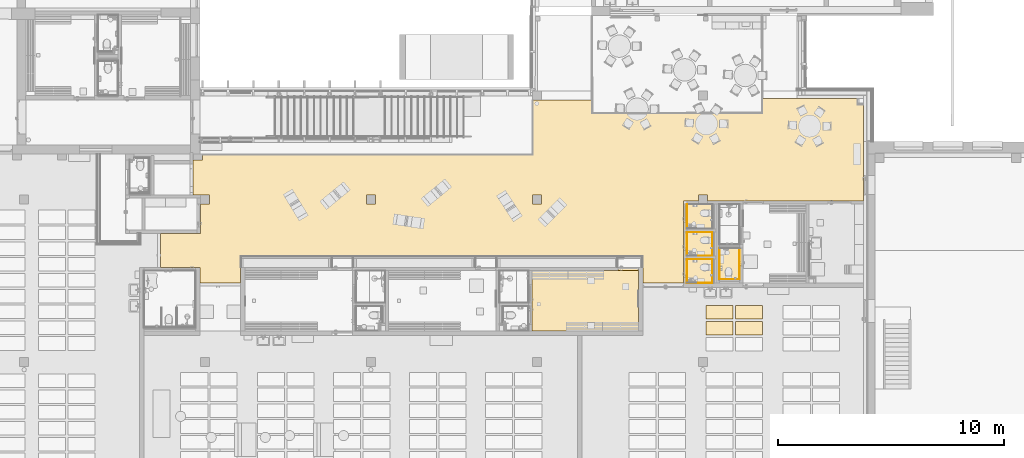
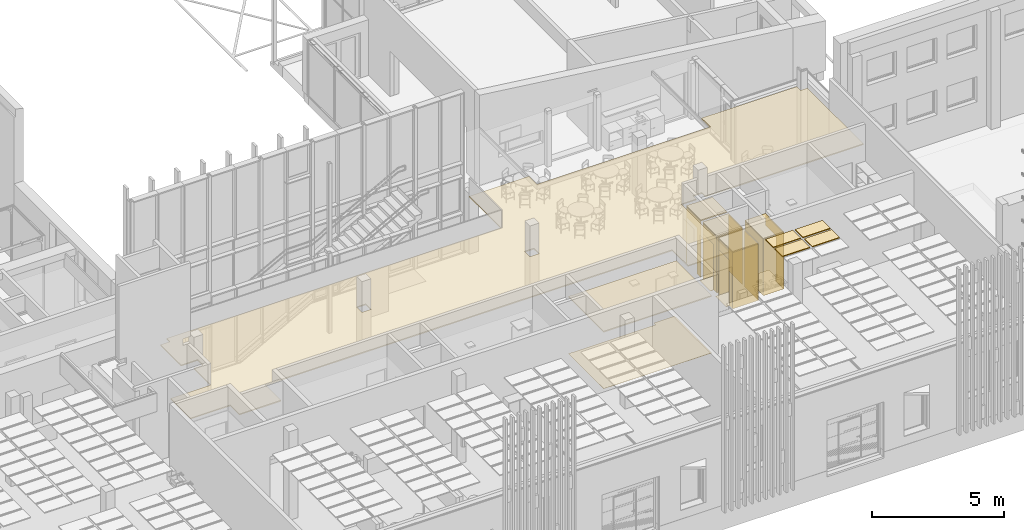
# One storey, part 238 of 301: 26 coverings, 4 openings.
"""IFC2X3 building model written with IfcOpenShell, lengths in millimetres."""

import ifcopenshell
import ifcopenshell.guid

model = None  # the IFC model being written
_history = None  # IfcOwnerHistory: only IFC2X3 demands one
_inside = {}  # id of a spatial element -> (the spatial element, [elements in it])
_under = {}  # id of a project, library or spatial element -> (it, [spatial elements below it])
_declared = {}  # id of a project -> (the project, [libraries it declares])
_typed = {}  # id of a type object -> (the type object, [elements of that type])
_made_of = {}  # id of a material, layer set ... -> (it, [elements and type objects made of it])


def new_model(schema):
    """Start an empty IFC model of exactly this schema.

    Asked for "IFC4X3", IfcOpenShell would pick the latest addendum, in which some entities
    have other attributes; the version numbers below select the first issue.
    IFC2X3 requires an IfcOwnerHistory on every rooted entity: one is made here for all.
    """
    global model, _history
    if schema == "IFC4X3":
        model = ifcopenshell.file(schema_version=(4, 3, 0, 0))
    else:
        model = ifcopenshell.file(schema=schema)
    _inside.clear()
    _under.clear()
    _declared.clear()
    _typed.clear()
    _made_of.clear()
    _history = None
    if model.schema == "IFC2X3":
        org = make("IfcOrganization", Name="unknown")
        user = make(
            "IfcPersonAndOrganization",
            ThePerson=make("IfcPerson", FamilyName="unknown"),
            TheOrganization=org,
        )
        app = make(
            "IfcApplication",
            ApplicationDeveloper=org,
            Version="unknown",
            ApplicationFullName="unknown",
            ApplicationIdentifier="unknown",
        )
        _history = make(
            "IfcOwnerHistory",
            OwningUser=user,
            OwningApplication=app,
            ChangeAction="ADDED",
            CreationDate=0,
        )
    return model


def make(cls, **values):
    """One entity of the class cls with the attributes given. An attribute that is None is left unset."""
    return model.create_entity(
        cls, **{name: value for name, value in values.items() if value is not None}
    )


def entity(cls, *values):
    """Any entity or typed value of the class cls, its attributes in the order of the schema. None: left unset."""
    e = model.create_entity(cls)
    for i, value in enumerate(values):
        if value is not None:
            e[i] = value
    return e


def rooted(cls, **values):
    """An entity with a GlobalId (a new one), such as an element, a storey or a relation."""
    return make(cls, GlobalId=ifcopenshell.guid.new(), OwnerHistory=_history, **values)


def si_unit(unit_type, name, prefix=None):
    """IfcSIUnit, for example si_unit("LENGTHUNIT", "METRE", prefix="MILLI")."""
    return make("IfcSIUnit", UnitType=unit_type, Prefix=prefix, Name=name)


def converted_unit(unit_type, name, factor, base, dimensions=None, offset=None):
    """IfcConversionBasedUnit, such as the inch: factor (a typed value) times the base unit."""
    return make(
        "IfcConversionBasedUnit"
        if offset is None
        else "IfcConversionBasedUnitWithOffset",
        ConversionOffset=offset,
        Dimensions=None
        if dimensions is None
        else entity("IfcDimensionalExponents", *dimensions),
        UnitType=unit_type,
        Name=name,
        ConversionFactor=make(
            "IfcMeasureWithUnit", ValueComponent=factor, UnitComponent=base
        ),
    )


def derived_unit(unit_type, elements):
    """IfcDerivedUnit: a product of units, each with its exponent."""
    return make(
        "IfcDerivedUnit",
        Elements=[
            make("IfcDerivedUnitElement", Unit=unit, Exponent=power)
            for unit, power in elements
        ],
        UnitType=unit_type,
    )


def money_unit(currency):
    """IfcMonetaryUnit."""
    return make("IfcMonetaryUnit", Currency=currency)


def assignment(units):
    """IfcUnitAssignment: the units of a project."""
    return None if units is None else make("IfcUnitAssignment", Units=units)


def point(xyz):
    """IfcCartesianPoint."""
    return None if xyz is None else make("IfcCartesianPoint", Coordinates=xyz)


def direction(xyz):
    """IfcDirection."""
    return None if xyz is None else make("IfcDirection", DirectionRatios=xyz)


def frame(location, z_axis=None, x_axis=None):
    """IfcAxis2Placement3D, a coordinate frame: its origin and axes. An axis left out is left unset."""
    return make(
        "IfcAxis2Placement3D",
        Location=point(location),
        Axis=direction(z_axis),
        RefDirection=direction(x_axis),
    )


def origin_with_axes():
    """The frame at (0, 0, 0) with the z axis (0, 0, 1) and the x axis (1, 0, 0) written out."""
    return frame((0.0, 0.0, 0.0), z_axis=(0.0, 0.0, 1.0), x_axis=(1.0, 0.0, 0.0))


def place(relative_to, where):
    """IfcLocalPlacement: puts the frame where relative to a parent placement (None: the world)."""
    return make(
        "IfcLocalPlacement", PlacementRelTo=relative_to, RelativePlacement=where
    )


def context(
    kind, dimensions, precision=None, world=None, true_north=None, identifier=None
):
    """IfcGeometricRepresentationContext, for example the 3D "Model" context."""
    return make(
        "IfcGeometricRepresentationContext",
        ContextIdentifier=identifier,
        ContextType=kind,
        CoordinateSpaceDimension=dimensions,
        Precision=precision,
        WorldCoordinateSystem=world,
        TrueNorth=true_north,
    )


def subcontext(parent, identifier, kind, view, scale=None):
    """IfcGeometricRepresentationSubContext, for example "Body" below "Model"."""
    return make(
        "IfcGeometricRepresentationSubContext",
        ContextIdentifier=identifier,
        ContextType=kind,
        ParentContext=parent,
        TargetScale=scale,
        TargetView=view,
    )


def project(units=None, contexts=None):
    """IfcProject with its units and contexts."""
    return rooted(
        "IfcProject",
        Name="project",
        RepresentationContexts=contexts,
        UnitsInContext=assignment(units),
    )


def spatial(cls, under=None, at=None, **own):
    """A site, building, storey or space (cls), placed at a placement, below another one or the project."""
    s = rooted(cls, ObjectPlacement=at, **own)
    if under is not None:
        _under.setdefault(under.id(), (under, []))[1].append(s)
    return s


def faces_of(points, faces, orient=None, outer=None):
    """IfcFace entities. A face is a list of loops; a loop is a list of indices into points, from 0.

    orient and outer hold one flag for each loop. By default every Orientation is true, the
    first loop of a face is its IfcFaceOuterBound and the others are IfcFaceBound.
    """
    made = []
    for i, loops in enumerate(faces):
        bounds = []
        for j, loop in enumerate(loops):
            is_outer = j == 0 if outer is None else outer[i][j]
            bounds.append(
                make(
                    "IfcFaceOuterBound" if is_outer else "IfcFaceBound",
                    Bound=make("IfcPolyLoop", Polygon=[points[k] for k in loop]),
                    Orientation=True if orient is None else orient[i][j],
                )
            )
        made.append(make("IfcFace", Bounds=bounds))
    return made


def faceted_brep(points, faces, orient=None, outer=None, voids=None):
    """IfcFacetedBrep: a solid bounded by flat faces; with voids (closed shells), ...WithVoids."""
    shared = [point(p) for p in points]
    hull = make("IfcClosedShell", CfsFaces=faces_of(shared, faces, orient, outer))
    if voids is None:
        return make("IfcFacetedBrep", Outer=hull)
    return make(
        "IfcFacetedBrepWithVoids",
        Outer=hull,
        Voids=[
            make(cls, CfsFaces=faces_of(shared, fs, o, b)) for cls, fs, o, b in voids
        ],
    )


def shape(context_of_items, identifier, shape_type, items):
    """IfcShapeRepresentation: the items that make up one representation, for example the "Body"."""
    return make(
        "IfcShapeRepresentation",
        ContextOfItems=context_of_items,
        RepresentationIdentifier=identifier,
        RepresentationType=shape_type,
        Items=items,
    )


def material(Name=None, Category=None):
    """IfcMaterial."""
    return make("IfcMaterial", Name=Name, Category=Category)


def made_of(thing, what):
    """Note that an element or type object is made of a material, layer set ...; save() writes the relation."""
    if what is not None:
        _made_of.setdefault(what.id(), (what, []))[1].append(thing)
    return thing


def type_object(cls, material=None, **own):
    """A type object (cls), such as IfcWallType, which elements share."""
    return made_of(rooted(cls, **own), material)


def element(
    cls,
    number,
    at=None,
    inside=None,
    cuts=None,
    type_object=None,
    material=None,
    context=None,
    identifier="Body",
    shape_type=None,
    held_by="IfcProductDefinitionShape",
    body=None,
    shapes=None,
    **own,
):
    """One element of the class cls, such as IfcWall. Its Tag is "e" and its number.

    at: its placement. inside: the storey or other place that contains it. cuts: it is an
    opening in that element (IfcRelVoidsElement). A single representation is given by context,
    identifier, shape_type and body (its items); several are given by shapes. held_by: the class
    of the entity that holds the representations. save() writes the other relations.
    """
    e = rooted(cls, Tag="e%d" % number, ObjectPlacement=at, **own)
    if body is not None:
        shapes = [shape(context, identifier, shape_type, body)]
    if shapes is not None:
        e.Representation = make(held_by, Representations=shapes)
    if inside is not None:
        _inside.setdefault(inside.id(), (inside, []))[1].append(e)
    if cuts is not None:
        rooted(
            "IfcRelVoidsElement", RelatingBuildingElement=cuts, RelatedOpeningElement=e
        )
    if type_object is not None:
        _typed.setdefault(type_object.id(), (type_object, []))[1].append(e)
    return made_of(e, material)


def aggregate(whole, parts):
    """IfcRelAggregates: a whole, such as a stair, and the parts it consists of."""
    return rooted("IfcRelAggregates", RelatingObject=whole, RelatedObjects=parts)


def save(model, path):
    """Write the relations noted so far, then the file.

    IfcRelAggregates (storeys below a building ...), IfcRelContainedInSpatialStructure (elements
    in a storey), IfcRelDefinesByType, IfcRelAssociatesMaterial and IfcRelDeclares: one each for
    every whole, place, type object, material and project.
    """
    for whole, parts in _under.values():
        aggregate(whole, parts)
    for where, things in _inside.values():
        rooted(
            "IfcRelContainedInSpatialStructure",
            RelatedElements=things,
            RelatingStructure=where,
        )
    for kind, things in _typed.values():
        rooted("IfcRelDefinesByType", RelatedObjects=things, RelatingType=kind)
    for what, things in _made_of.values():
        rooted("IfcRelAssociatesMaterial", RelatedObjects=things, RelatingMaterial=what)
    for by, libraries in _declared.values():
        rooted("IfcRelDeclares", RelatingContext=by, RelatedDefinitions=libraries)
    model.write(path)


model = new_model("IFC2X3")

# Units and contexts
model_context = context("Model", 3, precision=0.01, world=origin_with_axes(), true_north=direction((0.0, 1.0)))
body_context = subcontext(model_context, "Body", "Model", "MODEL_VIEW")
ifc_project = project(units=[si_unit("LENGTHUNIT", "METRE", prefix="MILLI"), si_unit("AREAUNIT", "SQUARE_METRE"), si_unit("VOLUMEUNIT", "CUBIC_METRE"), converted_unit("PLANEANGLEUNIT", "DEGREE", entity("IfcPlaneAngleMeasure", 0.0174532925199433), si_unit("PLANEANGLEUNIT", "RADIAN"), dimensions=[0, 0, 0, 0, 0, 0, 0]), money_unit("EUR"), converted_unit("TIMEUNIT", "Year", entity("IfcTimeMeasure", 31557600.0), si_unit("TIMEUNIT", "SECOND"), dimensions=[0, 0, 1, 0, 0, 0, 0]), si_unit("MASSUNIT", "GRAM", prefix="KILO"), si_unit("THERMODYNAMICTEMPERATUREUNIT", "DEGREE_CELSIUS"), si_unit("LUMINOUSINTENSITYUNIT", "LUMEN"), si_unit("ENERGYUNIT", "JOULE", prefix="MEGA"), derived_unit("THERMALCONDUCTANCEUNIT", [(si_unit("POWERUNIT", "WATT"), 1), (si_unit("LENGTHUNIT", "METRE"), -1), (si_unit("THERMODYNAMICTEMPERATUREUNIT", "KELVIN"), -1)]), derived_unit("SPECIFICHEATCAPACITYUNIT", [(si_unit("ENERGYUNIT", "JOULE"), 1), (si_unit("MASSUNIT", "GRAM", prefix="KILO"), -1), (si_unit("THERMODYNAMICTEMPERATUREUNIT", "KELVIN"), -1)]), derived_unit("MASSDENSITYUNIT", [(si_unit("MASSUNIT", "GRAM", prefix="KILO"), 1), (si_unit("VOLUMEUNIT", "CUBIC_METRE"), -1)])], contexts=[model_context])

# Site, building, storey
site_placement = place(None, frame((0.0, 0.0, 8650.0), z_axis=(0.0, 0.0, 1.0), x_axis=(1.0, 0.0, 0.0)))
site = spatial("IfcSite", under=ifc_project, at=site_placement, Name="43301:001:0844", CompositionType="ELEMENT")
building_placement = place(site_placement, origin_with_axes())
building = spatial("IfcBuilding", under=site, at=building_placement, Name="Kuressaare Ametikooli tuulikute mehaanikute õppekorpus", CompositionType="ELEMENT")
storey_placement = place(building_placement, origin_with_axes())
storey = spatial("IfcBuildingStorey", under=building, at=storey_placement, Name="1.korrus", CompositionType="ELEMENT", Elevation=0.0)

# Coverings
ifc_material_1 = material(Name="GENEERILINE - KONSTRUKTRIOON")
covering_type_1 = type_object("IfcCoveringType", Name="GENEERILINE - KONSTRUKTRIOON 50", PredefinedType="CEILING")
covering_1_placement = place(storey_placement, frame((103756.316481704, 25783.06892395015, 2640.000017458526), z_axis=(0.0, 0.0, 1.0), x_axis=(1.0, 0.0, 0.0)))
element("IfcCovering", 1, at=covering_1_placement, inside=storey, type_object=covering_type_1, material=ifc_material_1, Name="RL1", PredefinedType="CEILING", context=body_context, shape_type="Brep", body=[
    faceted_brep([(21308.94394550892, -2069.000000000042, 49.99999999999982), (21961.75187544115, -2069.000000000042, 49.99999999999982), (21961.75187544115, -1809.000000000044, 49.99999999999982), (22361.75187544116, -1809.000000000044, 49.99999999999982), (22361.75187544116, -2069.000000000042, 49.99999999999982), (29268.62995994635, -2069.000000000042, 49.99999999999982), (29268.62995994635, 2169.000000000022, 49.99999999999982), (28976.62995994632, 2169.000000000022, 49.99999999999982), (28976.62995994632, 2461.000000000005, 49.99999999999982), (24808.40173664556, 2461.000000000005, 49.99999999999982), (24808.40173664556, 1797.616194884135, 49.99999999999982), (17225.59021485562, 1797.616194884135, 49.99999999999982), (17225.59021485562, 2400.999999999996, 49.99999999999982), (14611.63008979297, 2400.999999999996, 49.99999999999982), (14611.63008979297, 0.0, 49.99999999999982), (0.0, 0.0, 49.99999999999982), (0.0, -250.0015018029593, 49.99999999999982), (-410.6617902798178, -250.0015018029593, 49.99999999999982), (-410.6617902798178, -1809.000000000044, 49.99999999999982), (311.6356600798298, -1809.000000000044, 49.99999999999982), (311.6356600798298, -2209.000000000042, 49.99999999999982), (-88.54329044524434, -2209.000000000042, 49.99999999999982), (-88.55935743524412, -3508.288538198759, 49.99999999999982), (-1849.01669125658, -3508.307434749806, 49.99999999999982), (-1849.000483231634, -5018.293903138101, 49.99999999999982), (-110.8045247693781, -5018.275245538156, 49.99999999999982), (-110.8045247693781, -5708.599082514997, 49.99999999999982), (1699.195464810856, -5708.599082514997, 49.99999999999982), (1699.195464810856, -4518.233230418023, 49.99999999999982), (19498.94505136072, -4518.230792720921, 49.99999999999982), (19498.94344818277, -5708.596644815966, 49.99999999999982), (21308.94394550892, -5708.599082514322, 49.99999999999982), (15011.63008979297, -2209.000000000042, 49.99999999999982), (14611.63008979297, -2209.000000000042, 49.99999999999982), (14611.63008979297, -1809.000000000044, 49.99999999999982), (15011.63008979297, -1809.000000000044, 49.99999999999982), (7661.632892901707, -2209.000000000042, 49.99999999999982), (7261.632892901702, -2209.000000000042, 49.99999999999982), (7261.632892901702, -1809.000000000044, 49.99999999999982), (7661.632892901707, -1809.000000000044, 49.99999999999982), (21308.94394550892, -2069.000000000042, 0.0), (21961.75187544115, -2069.000000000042, 0.0), (21961.75187544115, -1809.000000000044, 0.0), (22361.75187544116, -1809.000000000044, 0.0), (22361.75187544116, -2069.000000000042, 0.0), (29268.62995994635, -2069.000000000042, 0.0), (29268.62995994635, 2169.000000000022, 0.0), (28976.62995994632, 2169.000000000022, 0.0), (28976.62995994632, 2461.000000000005, 0.0), (24808.40173664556, 2461.000000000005, 0.0), (24808.40173664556, 1797.616194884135, 0.0), (17225.59021485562, 1797.616194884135, 0.0), (17225.59021485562, 2400.999999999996, 0.0), (14611.63008979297, 2400.999999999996, 0.0), (14611.63008979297, 0.0, 0.0), (0.0, 0.0, 0.0), (0.0, -250.0015018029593, 0.0), (-410.6617902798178, -250.0015018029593, 0.0), (-410.6617902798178, -1809.000000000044, 0.0), (311.6356600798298, -1809.000000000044, 0.0), (311.6356600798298, -2209.000000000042, 0.0), (-88.54329044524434, -2209.000000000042, 0.0), (-88.55935743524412, -3508.288538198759, 0.0), (-1849.01669125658, -3508.307434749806, 0.0), (-1849.000483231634, -5018.293903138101, 0.0), (-110.8045247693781, -5018.275245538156, 0.0), (-110.8045247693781, -5708.599082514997, 0.0), (1699.195464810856, -5708.599082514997, 0.0), (1699.195464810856, -4518.233230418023, 0.0), (19498.94505136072, -4518.230792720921, 0.0), (19498.94344818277, -5708.596644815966, 0.0), (21308.94394550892, -5708.599082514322, 0.0), (14611.63008979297, -2209.000000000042, 0.0), (15011.63008979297, -2209.000000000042, 0.0), (14611.63008979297, -1809.000000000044, 0.0), (15011.63008979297, -1809.000000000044, 0.0), (7261.632892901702, -2209.000000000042, 0.0), (7661.632892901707, -2209.000000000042, 0.0), (7261.632892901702, -1809.000000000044, 0.0), (7661.632892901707, -1809.000000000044, 0.0)], [[[0, 1, 2, 3, 4, 5, 6, 7, 8, 9, 10, 11, 12, 13, 14, 15, 16, 17, 18, 19, 20, 21, 22, 23, 24, 25, 26, 27, 28, 29, 30, 31], [32, 33, 34, 35], [36, 37, 38, 39]], [[40, 41, 1, 0]], [[42, 2, 1, 41]], [[43, 3, 2, 42]], [[44, 4, 3, 43]], [[5, 4, 44, 45]], [[6, 5, 45, 46]], [[7, 6, 46, 47]], [[8, 7, 47, 48]], [[9, 8, 48, 49]], [[10, 9, 49, 50]], [[11, 10, 50, 51]], [[12, 11, 51, 52]], [[13, 12, 52, 53]], [[14, 13, 53, 54]], [[15, 14, 54, 55]], [[16, 15, 55, 56]], [[17, 16, 56, 57]], [[18, 17, 57, 58]], [[19, 18, 58, 59]], [[20, 19, 59, 60]], [[21, 20, 60, 61]], [[22, 21, 61, 62]], [[23, 22, 62, 63]], [[24, 23, 63, 64]], [[25, 24, 64, 65]], [[26, 25, 65, 66]], [[27, 26, 66, 67]], [[28, 27, 67, 68]], [[29, 28, 68, 69]], [[30, 29, 69, 70]], [[31, 30, 70, 71]], [[0, 31, 71, 40]], [[72, 33, 32, 73]], [[74, 34, 33, 72]], [[75, 35, 34, 74]], [[73, 32, 35, 75]], [[76, 37, 36, 77]], [[78, 38, 37, 76]], [[79, 39, 38, 78]], [[77, 36, 39, 79]], [[43, 42, 41, 40, 71, 70, 69, 68, 67, 66, 65, 64, 63, 62, 61, 60, 59, 58, 57, 56, 55, 54, 53, 52, 51, 50, 49, 48, 47, 46, 45, 44], [74, 72, 73, 75], [78, 76, 77, 79]]]),
])
covering_2_placement = place(storey_placement, frame((118345.2604362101, 17954.83706625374, 2600.0), z_axis=(0.0, 0.0, 1.0), x_axis=(1.0, 0.0, 0.0)))
element("IfcCovering", 2, at=covering_2_placement, inside=storey, type_object=covering_type_1, material=ifc_material_1, Name="RL2", PredefinedType="CEILING", context=body_context, shape_type="Brep", body=[
    faceted_brep([(0.0, 0.0, 49.99999999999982), (0.0, 0.0, 0.0), (4720.000489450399, 0.0, 0.0), (4720.000489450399, 0.0, 49.99999999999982), (0.0, 2670.000387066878, 49.99999999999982), (0.0, 2670.000387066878, 0.0), (4720.000489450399, 2670.000387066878, 0.0), (4720.000489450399, 2670.000387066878, 49.99999999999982)], [[[0, 1, 2, 3]], [[4, 5, 1, 0]], [[2, 1, 5, 6]], [[3, 2, 6, 7]], [[4, 0, 3, 7]], [[7, 6, 5, 4]]]),
])
covering_3_placement = place(storey_placement, frame((126645.2610406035, 20244.46987343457, 2600.0), z_axis=(0.0, 0.0, 1.0), x_axis=(1.0, 0.0, 0.0)))
element("IfcCovering", 3, at=covering_3_placement, inside=storey, type_object=covering_type_1, material=ifc_material_1, Name="RL2", PredefinedType="CEILING", context=body_context, shape_type="Brep", body=[
    faceted_brep([(0.0, 0.0, 49.99999999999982), (0.0, 0.0, 0.0), (899.9999999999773, 0.0, 0.0), (899.9999999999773, 0.0, 49.99999999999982), (0.0, 1389.599050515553, 49.99999999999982), (0.0, 1389.599050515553, 0.0), (899.9999999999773, 1389.599050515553, 0.0), (899.9999999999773, 1389.599050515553, 49.99999999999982)], [[[0, 1, 2, 3]], [[4, 5, 1, 0]], [[2, 1, 5, 6]], [[3, 2, 6, 7]], [[4, 0, 3, 7]], [[7, 6, 5, 4]]]),
])
covering_4_placement = place(storey_placement, frame((125205.2609256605, 20074.46984143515, 2600.0), z_axis=(0.0, 0.0, 1.0), x_axis=(1.0, 0.0, 0.0)))
element("IfcCovering", 4, at=covering_4_placement, inside=storey, type_object=covering_type_1, material=ifc_material_1, Name="RL2", PredefinedType="CEILING", context=body_context, shape_type="Brep", body=[
    faceted_brep([(0.0, 0.0, 49.99999999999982), (0.0, 0.0, 0.0), (1130.000054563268, 0.0, 0.0), (1130.000054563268, 0.0, 49.99999999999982), (0.0, 1060.000154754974, 49.99999999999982), (0.0, 1060.000154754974, 0.0), (1130.000054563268, 1060.000154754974, 0.0), (1130.000054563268, 1060.000154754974, 49.99999999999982)], [[[0, 1, 2, 3]], [[4, 5, 1, 0]], [[2, 1, 5, 6]], [[3, 2, 6, 7]], [[4, 0, 3, 7]], [[7, 6, 5, 4]]]),
])
covering_5_placement = place(storey_placement, frame((125205.2607270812, 21274.46984143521, 2600.0), z_axis=(0.0, 0.0, 1.0), x_axis=(1.0, 0.0, 0.0)))
element("IfcCovering", 5, at=covering_5_placement, inside=storey, type_object=covering_type_1, material=ifc_material_1, Name="RL2", PredefinedType="CEILING", context=body_context, shape_type="Brep", body=[
    faceted_brep([(0.0, 0.0, 49.99999999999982), (0.0, 0.0, 0.0), (1129.999842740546, 0.0, 0.0), (1129.999842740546, 0.0, 49.99999999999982), (0.0, 1060.000305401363, 49.99999999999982), (0.0, 1060.000305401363, 0.0), (1129.999842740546, 1060.000305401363, 0.0), (1129.999842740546, 1060.000305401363, 49.99999999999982)], [[[0, 1, 2, 3]], [[4, 5, 1, 0]], [[2, 1, 5, 6]], [[3, 2, 6, 7]], [[4, 0, 3, 7]], [[7, 6, 5, 4]]]),
])
covering_6_placement = place(storey_placement, frame((125205.260556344, 22474.46999208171, 2600.0), z_axis=(0.0, 0.0, 1.0), x_axis=(1.0, 0.0, 0.0)))
element("IfcCovering", 6, at=covering_6_placement, inside=storey, type_object=covering_type_1, material=ifc_material_1, Name="RL2", PredefinedType="CEILING", context=body_context, shape_type="Brep", body=[
    faceted_brep([(1129.99999999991, 1100.000150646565, 0.0), (912.8078008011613, 1100.000150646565, 0.0), (912.8078008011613, 1100.000150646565, 49.99999999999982), (1129.99999999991, 1100.000150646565, 49.99999999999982), (512.8078008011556, 1099.598931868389, 0.0), (912.8078008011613, 1099.598931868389, 0.0), (1129.99999999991, 0.0, 0.0), (0.0, 0.0, 0.0), (0.0, 1100.000150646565, 0.0), (512.8078008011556, 1100.000150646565, 0.0), (912.8078008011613, 1099.598931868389, 49.99999999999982), (512.8078008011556, 1099.598931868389, 49.99999999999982), (512.8078008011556, 1100.000150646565, 49.99999999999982), (0.0, 1100.000150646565, 49.99999999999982), (0.0, 0.0, 49.99999999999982), (1129.99999999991, 0.0, 49.99999999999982)], [[[0, 1, 2, 3]], [[4, 5, 1, 0, 6, 7, 8, 9]], [[5, 10, 2, 1]], [[10, 11, 12, 13, 14, 15, 3, 2]], [[3, 15, 6, 0]], [[4, 11, 10, 5]], [[15, 14, 7, 6]], [[14, 13, 8, 7]], [[13, 12, 9, 8]], [[4, 9, 12, 11]]]),
])
covering_type_2 = type_object("IfcCoveringType", Name="GENEERILINE - KONSTRUKTRIOON 40", PredefinedType="CEILING")
for number, where, z_axis, x_axis, name in (
    (7, (128560.0, 19074.046874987, 3530.0), (0.0, 0.0, 1.0), (1.0, 0.0, 0.0), "RL3"),
    (8, (128560.0, 18374.04687498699, 3530.0), (0.0, 0.0, 1.0), (1.0, 0.0, 0.0), "RL3"),
):
    element("IfcCovering", number, at=place(storey_placement, frame(where, z_axis=z_axis, x_axis=x_axis)), inside=storey, type_object=covering_type_2, material=ifc_material_1, Name=name, PredefinedType="CEILING", context=body_context, shape_type="Brep", body=[
        faceted_brep([(0.0, 0.0, 0.0), (0.0, 0.0, -40.00000000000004), (-1200.000000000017, 0.0, -40.00000000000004), (-1200.000000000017, 0.0, 0.0), (0.0, -599.9999999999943, 0.0), (0.0, -599.9999999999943, -40.00000000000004), (-1200.000000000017, -599.9999999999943, -40.00000000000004), (-1200.000000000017, -599.9999999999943, 0.0)], [[[0, 1, 2, 3]], [[4, 5, 1, 0]], [[2, 1, 5, 6]], [[3, 2, 6, 7]], [[4, 0, 3, 7]], [[7, 6, 5, 4]]]),
    ])
for number, where, z_axis, x_axis, name in (
    (9, (127260.0, 19074.046874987, 3530.0), (0.0, 0.0, 1.0), (1.0, 0.0, 0.0), "RL3"),
    (10, (127260.0, 18374.04687498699, 3530.0), (0.0, 0.0, 1.0), (1.0, 0.0, 0.0), "RL3"),
):
    element("IfcCovering", number, at=place(storey_placement, frame(where, z_axis=z_axis, x_axis=x_axis)), inside=storey, type_object=covering_type_2, material=ifc_material_1, Name=name, PredefinedType="CEILING", context=body_context, shape_type="Brep", body=[
        faceted_brep([(0.0, 0.0, 0.0), (0.0, 0.0, -40.00000000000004), (-1200.000000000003, 0.0, -40.00000000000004), (-1200.000000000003, 0.0, 0.0), (0.0, -599.9999999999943, 0.0), (0.0, -599.9999999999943, -40.00000000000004), (-1200.000000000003, -599.9999999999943, -40.00000000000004), (-1200.000000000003, -599.9999999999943, 0.0)], [[[0, 1, 2, 3]], [[4, 5, 1, 0]], [[2, 1, 5, 6]], [[3, 2, 6, 7]], [[4, 0, 3, 7]], [[7, 6, 5, 4]]]),
    ])
ifc_material_2 = material(Name="SA_viimistluskiht")
covering_type_3 = type_object("IfcCoveringType", Name="SA_viimistluskiht 10", PredefinedType="CLADDING")
covering_7_placement = place(storey_placement, frame((126335.2609802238, 21134.46999619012, 0.0), z_axis=(0.0, 0.0, 1.0), x_axis=(2.029745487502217e-07, -0.9999999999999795, 0.0)))
element("IfcCovering", 11, at=covering_7_placement, inside=storey, type_object=covering_type_3, material=ifc_material_2, Name="S3", PredefinedType="CLADDING", context=body_context, shape_type="Brep", body=[
    faceted_brep([(9.999999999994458, 1.339728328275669e-06, 0.0), (9.999999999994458, 1.339728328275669e-06, 2600.0), (1050.000004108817, 0.0001406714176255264, 2600.0), (1050.000004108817, 0.0001406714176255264, 0.0), (10.0000016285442, -10.00000000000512, 2600.0), (10.0000016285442, -10.00000000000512, 0.0), (1049.999990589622, -10.00000000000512, 2600.0), (1049.999990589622, -9.999999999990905, 0.0)], [[[0, 1, 2, 3]], [[4, 1, 0, 5]], [[1, 4, 6, 2]], [[3, 2, 6, 7]], [[5, 0, 3, 7]], [[4, 5, 7, 6]]]),
])
covering_8_placement = place(storey_placement, frame((126335.2611953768, 20074.4699920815, 0.0), z_axis=(0.0, 0.0, 1.0), x_axis=(-0.99999999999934, 1.148925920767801e-06, 0.0)))
element("IfcCovering", 12, at=covering_8_placement, inside=storey, type_object=covering_type_3, material=ifc_material_2, Name="S3", PredefinedType="CLADDING", context=body_context, shape_type="Brep", body=[
    faceted_brep([(1130.000282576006, -9.99999999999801, 0.0), (1130.000282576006, -9.99999999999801, 2600.0), (-0.0001271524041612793, -10.00000000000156, 2600.0), (-0.0001271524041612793, -10.00000000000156, 0.0), (1130.000269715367, 0.001448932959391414, 2600.0), (1130.000269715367, 0.001448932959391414, 0.0), (-0.0001420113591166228, 0.0001506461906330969, 2600.0), (-0.0001420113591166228, 0.0001506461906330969, 0.0)], [[[0, 1, 2, 3]], [[4, 1, 0, 5]], [[1, 4, 6, 2]], [[3, 2, 6, 7]], [[5, 0, 3, 7]], [[4, 5, 7, 6]]]),
])
covering_9_placement = place(storey_placement, frame((126335.2609802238, 21134.46999619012, 0.0), z_axis=(0.0, 0.0, 1.0), x_axis=(-0.9999999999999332, -3.658297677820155e-07, 0.0)))
element("IfcCovering", 13, at=covering_9_placement, inside=storey, type_object=covering_type_3, material=ifc_material_2, Name="S3", PredefinedType="CLADDING", context=body_context, shape_type="Brep", body=[
    faceted_brep([(0.0, 0.0, 2600.0), (1130.000199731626, 0.0, 2600.0), (1130.000202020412, 9.99999999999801, 2600.0), (2.888356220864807e-07, 9.99999999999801, 2600.0), (0.0, 0.0, 0.0), (1130.000199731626, 0.0, 0.0), (1130.000202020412, 9.99999999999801, 0.0), (2.888356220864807e-07, 9.99999999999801, 0.0)], [[[0, 1, 2, 3]], [[4, 5, 1, 0]], [[6, 2, 1, 5]], [[3, 2, 6, 7]], [[7, 4, 0, 3]], [[7, 6, 5, 4]]]),
])

# Covering, opening
covering_10_placement = place(storey_placement, frame((125205.2605662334, 21274.47129447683, 0.0), z_axis=(0.0, 0.0, 1.0), x_axis=(-1.073625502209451e-07, 0.9999999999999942, 0.0)))
covering_10 = element("IfcCovering", 14, at=covering_10_placement, inside=storey, type_object=covering_type_3, material=ifc_material_2, Name="S3", PredefinedType="CLADDING", context=body_context, shape_type="Brep", body=[
    faceted_brep([(249.9983384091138, -10.00000000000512, 0.0), (249.9983384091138, -10.00000000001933, 2110.0), (1049.998295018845, -10.00000000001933, 2110.0), (1049.998295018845, -10.00000000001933, 2600.0), (9.999987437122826, -10.00000000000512, 2600.0), (9.999987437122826, -10.00000000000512, 0.0), (249.9983384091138, 0.0, 0.0), (249.9983384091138, 0.0, 2110.0), (1049.998292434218, 0.0, 2110.0), (1049.998292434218, -0.0001640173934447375, 2600.0), (9.999999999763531, -0.0001950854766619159, 2600.0), (9.999999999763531, -0.0001950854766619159, 0.0)], [[[0, 1, 2, 3, 4, 5]], [[1, 0, 6, 7]], [[8, 2, 1, 7]], [[2, 8, 9, 3]], [[9, 10, 4, 3]], [[4, 10, 11, 5]], [[6, 0, 5, 11]], [[7, 6, 11, 10, 9, 8]]]),
])
opening_1_placement = place(covering_10_placement, frame((654.9983384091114, 0.0, 0.0), z_axis=(0.0, 0.0, 1.0), x_axis=(1.0, 0.0, 0.0)))
element("IfcOpeningElement", 15, at=opening_1_placement, cuts=covering_10, Name="ava", context=body_context, shape_type="Brep", body=[
    faceted_brep([(-404.9999999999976, 0.0, 2110.0), (405.0000000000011, 0.0, 2110.0), (405.0000000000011, 1.000113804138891, 2110.0), (-404.9999999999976, 1.000113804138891, 2110.0), (-404.9999999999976, -11.0001138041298, 2110.0), (405.0000000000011, -11.0001138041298, 2110.0), (405.0000000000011, 0.0, 0.0), (405.0000000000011, 1.000113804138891, 0.0), (-404.9999999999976, 1.000113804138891, 0.0), (-404.9999999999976, 0.0, 0.0), (-404.9999999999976, -11.0001138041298, 0.0), (405.0000000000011, -11.0001138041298, 0.0)], [[[0, 1, 2, 3]], [[1, 0, 4, 5]], [[1, 6, 7, 2]], [[7, 8, 3, 2]], [[9, 0, 3, 8]], [[0, 9, 10, 4]], [[4, 10, 11, 5]], [[6, 1, 5, 11]], [[6, 9, 8, 7]], [[9, 6, 11, 10]]]),
])

# Coverings
covering_11_placement = place(storey_placement, frame((126335.2607178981, 22334.47000029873, 0.0), z_axis=(0.0, 0.0, 1.0), x_axis=(2.029745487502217e-07, -0.9999999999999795, 0.0)))
element("IfcCovering", 16, at=covering_11_placement, inside=storey, type_object=covering_type_3, material=ifc_material_2, Name="S3", PredefinedType="CLADDING", context=body_context, shape_type="Brep", body=[
    faceted_brep([(10.00000000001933, -0.0001467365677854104, 0.0), (10.00000000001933, -0.0001467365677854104, 2600.0), (1050.000004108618, -6.046946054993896e-06, 2600.0), (1050.000004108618, -6.046946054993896e-06, 0.0), (10.00000162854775, -10.00000000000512, 2600.0), (10.00000162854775, -10.00000000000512, 0.0), (1049.999990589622, -10.00000000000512, 2600.0), (1049.999990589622, -10.00000000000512, 0.0)], [[[0, 1, 2, 3]], [[4, 1, 0, 5]], [[1, 4, 6, 2]], [[3, 2, 6, 7]], [[5, 0, 3, 7]], [[4, 5, 7, 6]]]),
])
covering_12_placement = place(storey_placement, frame((126335.2609330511, 21274.46999619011, 0.0), z_axis=(0.0, 0.0, 1.0), x_axis=(-0.99999999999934, 1.148925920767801e-06, 0.0)))
element("IfcCovering", 17, at=covering_12_placement, inside=storey, type_object=covering_type_3, material=ifc_material_2, Name="S3", PredefinedType="CLADDING", context=body_context, shape_type="Brep", body=[
    faceted_brep([(1130.000184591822, -10.00000000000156, 0.0), (1130.000184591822, -10.00000000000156, 2600.0), (1.956594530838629e-05, -10.00000000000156, 2600.0), (1.956594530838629e-05, -10.00000000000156, 0.0), (1130.000171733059, 0.0, 2600.0), (1130.000171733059, 0.0, 0.0), (4.707217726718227e-06, 0.0, 2600.0), (4.707217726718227e-06, 0.0, 0.0)], [[[0, 1, 2, 3]], [[4, 1, 0, 5]], [[1, 4, 6, 2]], [[3, 2, 6, 7]], [[5, 0, 3, 7]], [[4, 5, 7, 6]]]),
])
covering_13_placement = place(storey_placement, frame((126335.2607178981, 22334.47000029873, 0.0), z_axis=(0.0, 0.0, 1.0), x_axis=(-0.9999999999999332, -3.658297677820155e-07, 0.0)))
element("IfcCovering", 18, at=covering_13_placement, inside=storey, type_object=covering_type_3, material=ifc_material_2, Name="S3", PredefinedType="CLADDING", context=body_context, shape_type="Brep", body=[
    faceted_brep([(0.0001480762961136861, 0.0, 2600.0), (1130.000101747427, 0.0, 2600.0), (1130.000104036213, 9.99999999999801, 2600.0), (0.0001483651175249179, 9.99999999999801, 2600.0), (0.0001480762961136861, 0.0, 0.0), (1130.000101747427, 0.0, 0.0), (1130.000104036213, 9.99999999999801, 0.0), (0.0001483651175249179, 9.99999999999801, 0.0)], [[[0, 1, 2, 3]], [[4, 5, 1, 0]], [[6, 2, 1, 5]], [[3, 2, 6, 7]], [[7, 4, 0, 3]], [[7, 6, 5, 4]]]),
])

# Covering, opening
covering_14_placement = place(storey_placement, frame((125205.2601558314, 22474.47144512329, 0.0), z_axis=(0.0, 0.0, 1.0), x_axis=(-1.073625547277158e-07, 0.9999999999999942, 0.0)))
covering_14 = element("IfcCovering", 19, at=covering_14_placement, inside=storey, type_object=covering_type_3, material=ifc_material_2, Name="S3", PredefinedType="CLADDING", context=body_context, shape_type="Brep", body=[
    faceted_brep([(289.5974788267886, -10.00000000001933, 0.0), (289.5974788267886, -10.00000000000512, 2110.0), (1089.998286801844, -10.00000000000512, 2110.0), (1089.998286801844, -10.00000000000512, 0.0), (1099.597477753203, -9.999999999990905, 0.0), (1099.597477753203, -9.999999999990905, 2600.0), (9.999987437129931, -10.00000000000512, 2600.0), (9.999987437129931, -10.00000000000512, 0.0), (289.597478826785, 0.0, 0.0), (289.597478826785, 0.0, 2110.0), (1099.597478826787, 0.0, 2110.0), (1099.597478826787, -0.400805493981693, 2110.0), (1099.597478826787, -0.400805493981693, 0.0), (1099.597478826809, -0.0002043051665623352, 2600.0), (9.999999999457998, -0.0004411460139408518, 2600.0), (9.999999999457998, -0.0004411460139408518, 0.0)], [[[0, 1, 2, 3, 4, 5, 6, 7]], [[1, 0, 8, 9]], [[2, 1, 9, 10, 11]], [[3, 2, 11, 12]], [[3, 12, 4]], [[11, 10, 13, 5, 4, 12]], [[13, 14, 6, 5]], [[15, 7, 6, 14]], [[8, 0, 7, 15]], [[9, 8, 15, 14, 13, 10]]]),
])
opening_2_placement = place(covering_14_placement, frame((694.5974788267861, 0.0, 0.0), z_axis=(0.0, 0.0, 1.0), x_axis=(1.0, 0.0, 0.0)))
element("IfcOpeningElement", 20, at=opening_2_placement, cuts=covering_14, Name="ava", context=body_context, shape_type="Brep", body=[
    faceted_brep([(-405.0000000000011, 0.0, 2110.0), (405.0000000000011, 0.0, 2110.0), (405.0000000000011, 1.000118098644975, 2110.0), (-404.9999999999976, 1.000118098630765, 2110.0), (-405.0000000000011, -11.0001180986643, 2110.0), (394.400690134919, -11.00011809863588, 2110.0), (405.0000000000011, -0.400805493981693, 2110.0), (405.0000000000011, 0.0, 0.0), (405.0000000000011, 1.000118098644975, 0.0), (-404.9999999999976, 1.000118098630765, 0.0), (-405.0000000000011, 0.0, 0.0), (-405.0000000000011, -11.0001180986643, 0.0), (394.400690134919, -11.00011809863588, 0.0), (405.0000000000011, -0.400805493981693, 0.0)], [[[0, 1, 2, 3]], [[1, 0, 4, 5, 6]], [[1, 7, 8, 2]], [[8, 9, 3, 2]], [[10, 0, 3, 9]], [[0, 10, 11, 4]], [[4, 11, 12, 5]], [[5, 12, 13, 6]], [[7, 1, 6, 13]], [[7, 10, 9, 8]], [[10, 7, 13, 12, 11]]]),
])

covering_15_placement = place(storey_placement, frame((127545.2610759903, 20244.46987343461, 0.0), z_axis=(0.0, 0.0, 1.0), x_axis=(-1.073627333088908e-07, 0.9999999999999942, 0.0)))
covering_15 = element("IfcCovering", 21, at=covering_15_placement, inside=storey, type_object=covering_type_3, material=ifc_material_2, Name="S3", PredefinedType="CLADDING", context=body_context, shape_type="Brep", body=[
    faceted_brep([(579.5986121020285, 0.0, 0.0), (579.5986121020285, 0.0, 2110.0), (1379.598914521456, 0.0, 2110.0), (1379.598914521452, -0.0001127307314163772, 2600.0), (9.998772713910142, 3.538680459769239e-05, 2600.0), (9.998772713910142, 3.538680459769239e-05, 0.0), (579.5986121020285, 10.00000000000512, 0.0), (579.5986121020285, 9.999999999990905, 2110.0), (1379.598917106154, 9.999999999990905, 2110.0), (1379.598917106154, 9.999999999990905, 2600.0), (9.99877378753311, 10.00000000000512, 2600.0), (9.99877378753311, 10.00000000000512, 0.0)], [[[0, 1, 2, 3, 4, 5]], [[1, 0, 6, 7]], [[8, 2, 1, 7]], [[2, 8, 9, 3]], [[9, 10, 4, 3]], [[4, 10, 11, 5]], [[6, 0, 5, 11]], [[7, 6, 11, 10, 9, 8]]]),
])
opening_3_placement = place(covering_15_placement, frame((984.5986121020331, 0.0, 0.0), z_axis=(0.0, 0.0, 1.0), x_axis=(1.0, 0.0, 0.0)))
element("IfcOpeningElement", 22, at=opening_3_placement, cuts=covering_15, Name="ava", context=body_context, shape_type="Brep", body=[
    faceted_brep([(404.9999999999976, 0.0, 0.0), (404.9999999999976, 0.0, 2110.0), (404.999999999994, -1.000149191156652, 2110.0), (404.999999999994, -1.000149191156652, 0.0), (404.9999999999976, 11.00014919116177, 0.0), (404.9999999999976, 11.00014919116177, 2110.0), (-405.0000000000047, 0.0, 2110.0), (-405.0000000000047, -1.000149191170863, 2110.0), (-405.0000000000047, -1.000149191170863, 0.0), (-405.0000000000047, 0.0, 0.0), (-405.0000000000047, 11.00014919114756, 0.0), (-405.0000000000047, 11.00014919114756, 2110.0)], [[[0, 1, 2, 3]], [[1, 0, 4, 5]], [[1, 6, 7, 2]], [[8, 3, 2, 7]], [[9, 0, 3, 8]], [[0, 9, 10, 4]], [[5, 4, 10, 11]], [[6, 1, 5, 11]], [[6, 9, 8, 7]], [[9, 6, 11, 10]]]),
])

# Coverings
covering_16_placement = place(storey_placement, frame((126645.2610406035, 21634.06892395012, 0.0), z_axis=(0.0, 0.0, 1.0), x_axis=(1.175071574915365e-08, -1.0, 0.0)))
element("IfcCovering", 23, at=covering_16_placement, inside=storey, type_object=covering_type_3, material=ifc_material_2, Name="S3", PredefinedType="CLADDING", context=body_context, shape_type="Brep", body=[
    faceted_brep([(1379.600277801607, 1.175237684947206e-07, 2600.0), (1379.600277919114, 9.999983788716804, 2600.0), (1.628553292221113e-06, 10.00000000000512, 2600.0), (0.0, 0.0, 2600.0), (1379.600277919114, 9.999983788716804, 0.0), (1379.600277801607, 1.175237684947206e-07, 0.0), (1.628553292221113e-06, 10.00000000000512, 0.0), (0.0, 0.0, 0.0)], [[[0, 1, 2, 3]], [[4, 1, 0, 5]], [[1, 4, 6, 2]], [[3, 2, 6, 7]], [[5, 0, 3, 7]], [[4, 5, 7, 6]]]),
])
covering_17_placement = place(storey_placement, frame((126645.2610569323, 20244.46864614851, 0.0), z_axis=(0.0, 0.0, 1.0), x_axis=(0.9999999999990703, 1.363651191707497e-06, 0.0)))
element("IfcCovering", 24, at=covering_17_placement, inside=storey, type_object=covering_type_3, material=ifc_material_2, Name="S3", PredefinedType="CLADDING", context=body_context, shape_type="Brep", body=[
    faceted_brep([(899.9999836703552, -0.001227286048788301, 2600.0), (899.999997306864, 9.998772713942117, 2600.0), (1.36365088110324e-05, 9.999999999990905, 2600.0), (0.0, 0.0, 2600.0), (899.999997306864, 9.998772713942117, 0.0), (899.9999836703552, -0.001227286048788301, 0.0), (1.36365088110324e-05, 9.999999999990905, 0.0), (0.0, 0.0, 0.0)], [[[0, 1, 2, 3]], [[4, 1, 0, 5]], [[1, 4, 6, 2]], [[6, 7, 3, 2]], [[5, 0, 3, 7]], [[4, 5, 7, 6]]]),
])

# Covering, opening
covering_18_placement = place(storey_placement, frame((125205.2608285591, 20074.47129036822, 0.0), z_axis=(0.0, 0.0, 1.0), x_axis=(-1.073625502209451e-07, 0.9999999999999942, 0.0)))
covering_18 = element("IfcCovering", 25, at=covering_18_placement, inside=storey, type_object=covering_type_3, material=ifc_material_2, Name="S3", PredefinedType="CLADDING", context=body_context, shape_type="Brep", body=[
    faceted_brep([(249.9983384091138, -10.00000000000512, 0.0), (249.9983384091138, -10.00000000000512, 2110.0), (1049.998295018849, -10.00000000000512, 2110.0), (1049.998295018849, -10.00000000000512, 2600.0), (9.99998743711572, -10.00000000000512, 2600.0), (9.99998743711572, -10.00000000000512, 0.0), (249.9983384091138, 0.0, 0.0), (249.9983384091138, 0.0, 2110.0), (1049.998292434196, 0.0, 2110.0), (1049.998292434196, -6.603318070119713e-05, 2600.0), (9.999999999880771, -9.680535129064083e-05, 2600.0), (9.999999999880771, -9.680535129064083e-05, 0.0)], [[[0, 1, 2, 3, 4, 5]], [[1, 0, 6, 7]], [[8, 2, 1, 7]], [[2, 8, 9, 3]], [[9, 10, 4, 3]], [[4, 10, 11, 5]], [[6, 0, 5, 11]], [[7, 6, 11, 10, 9, 8]]]),
])
opening_4_placement = place(covering_18_placement, frame((654.9983384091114, 0.0, 0.0), z_axis=(0.0, 0.0, 1.0), x_axis=(1.0, 0.0, 0.0)))
element("IfcOpeningElement", 26, at=opening_4_placement, cuts=covering_18, Name="ava", context=body_context, shape_type="Brep", body=[
    faceted_brep([(-404.9999999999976, 0.0, 2110.0), (405.0000000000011, 0.0, 2110.0), (405.0000000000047, 1.000113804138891, 2110.0), (-404.9999999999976, 1.000113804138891, 2110.0), (-404.9999999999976, -11.0001138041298, 2110.0), (405.0000000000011, -11.0001138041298, 2110.0), (405.0000000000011, 0.0, 0.0), (405.0000000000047, 1.000113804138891, 0.0), (-404.9999999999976, 1.000113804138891, 0.0), (-404.9999999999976, 0.0, 0.0), (-404.9999999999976, -11.0001138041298, 0.0), (405.0000000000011, -11.0001138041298, 0.0)], [[[0, 1, 2, 3]], [[1, 0, 4, 5]], [[1, 6, 7, 2]], [[7, 8, 3, 2]], [[9, 0, 3, 8]], [[0, 9, 10, 4]], [[4, 10, 11, 5]], [[6, 1, 5, 11]], [[6, 9, 8, 7]], [[9, 6, 11, 10]]]),
])

# Coverings
covering_type_4 = type_object("IfcCoveringType", Name="GENEERILINE - KONSTRUKTRIOON 10", PredefinedType="FLOORING")
for number, where, z_axis, x_axis, name in (
    (27, (125065.2606332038, 22324.47032777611, 0.0), (0.0, 0.0, 1.0), (1.0, 0.0, 0.0), "P3a"),
    (28, (125065.2608055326, 21124.47017245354, 0.0), (0.0, 0.0, 1.0), (1.0, 0.0, 0.0), "P3a"),
):
    element("IfcCovering", number, at=place(storey_placement, frame(where, z_axis=z_axis, x_axis=x_axis)), inside=storey, type_object=covering_type_4, material=ifc_material_1, Name=name, PredefinedType="FLOORING", context=body_context, shape_type="Brep", body=[
        faceted_brep([(0.0, 0.0, 0.0), (0.0, 0.0, -10.0), (9.387744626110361e-05, -800.0003548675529, -10.0), (9.387744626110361e-05, -800.0003548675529, 0.0), (1260.000467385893, 0.0, 0.0), (1260.000467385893, 0.0, -10.0), (1260.000467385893, -1039.998893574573, -10.0), (150.0000395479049, -1039.998893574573, -10.0), (150.0000583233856, -800.0003548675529, -10.0), (150.0000583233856, -800.0003548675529, 0.0), (150.0000395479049, -1039.998893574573, 0.0), (1260.000467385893, -1039.998893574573, 0.0)], [[[0, 1, 2, 3]], [[4, 5, 1, 0]], [[2, 1, 5, 6, 7, 8]], [[3, 2, 8, 9]], [[4, 0, 3, 9, 10, 11]], [[11, 6, 5, 4]], [[10, 7, 6, 11]], [[9, 8, 7, 10]]]),
    ])
covering_19_placement = place(storey_placement, frame((126655.2610407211, 21624.06883933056, 0.0), z_axis=(0.0, 0.0, 1.0), x_axis=(1.0, 0.0, 0.0)))
element("IfcCovering", 29, at=covering_19_placement, inside=storey, type_object=covering_type_4, material=ifc_material_1, Name="P3a", PredefinedType="FLOORING", context=body_context, shape_type="Brep", body=[
    faceted_brep([(0.0, 0.0, 0.0), (0.0, 0.0, -10.0), (0.0, -1369.598979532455, -10.0), (0.0, -1369.598979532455, 0.0), (1030.000034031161, 0.0, 0.0), (1030.000034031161, 0.0, -10.0), (1029.999931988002, -800.0003545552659, -10.0), (879.9999777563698, -800.0003545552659, -10.0), (880.0000185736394, -1369.598979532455, -10.0), (880.0000185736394, -1369.598979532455, 0.0), (879.9999777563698, -800.0003545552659, 0.0), (1029.999931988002, -800.0003545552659, 0.0)], [[[0, 1, 2, 3]], [[4, 5, 1, 0]], [[1, 5, 6, 7, 8, 2]], [[3, 2, 8, 9]], [[4, 0, 3, 9, 10, 11]], [[11, 6, 5, 4]], [[10, 7, 6, 11]], [[9, 8, 7, 10]]]),
])
covering_20_placement = place(storey_placement, frame((123065.2613219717, 17954.80115400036, 0.0), z_axis=(0.0, 0.0, 1.0), x_axis=(1.0, 0.0, 0.0)))
element("IfcCovering", 30, at=covering_20_placement, inside=storey, type_object=covering_type_4, material=ifc_material_1, Name="P3a", PredefinedType="FLOORING", context=body_context, shape_type="Brep", body=[
    faceted_brep([(0.0, 0.0, 0.0), (0.0, 0.0, -10.0), (-0.0004170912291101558, 2810.036960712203, -10.0), (-0.0004170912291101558, 2810.036960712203, 0.0), (-4720.000181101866, 0.03542872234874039, 0.0), (-4720.000181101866, 0.03542872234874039, -10.0), (-4720.000269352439, 2670.03631430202, -10.0), (-910.0003963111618, 2670.036826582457, -10.0), (-910.0004169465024, 2810.036826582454, -10.0), (-910.0004169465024, 2810.036826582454, 0.0), (-910.0003963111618, 2670.036826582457, 0.0), (-4720.000269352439, 2670.03631430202, 0.0)], [[[0, 1, 2, 3]], [[4, 5, 1, 0]], [[2, 1, 5, 6, 7, 8]], [[3, 2, 8, 9]], [[4, 0, 3, 9, 10, 11]], [[11, 6, 5, 4]], [[10, 7, 6, 11]], [[9, 8, 7, 10]]]),
])

save(model, "model.ifc")
